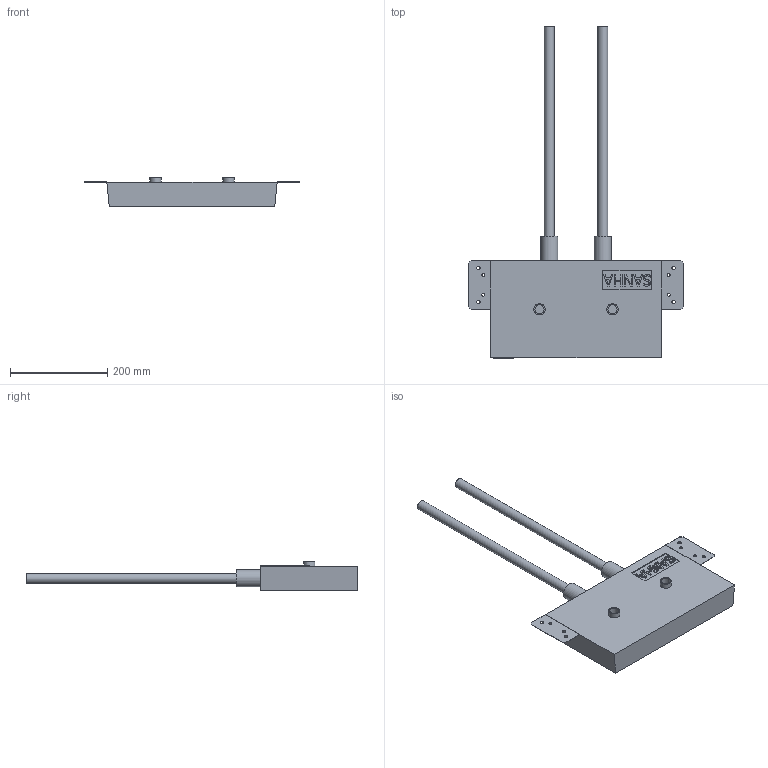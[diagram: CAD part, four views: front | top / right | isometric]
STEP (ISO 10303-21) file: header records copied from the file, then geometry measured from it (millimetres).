
FILE_DESCRIPTION(/* description */ (''),/* implementation_level */ '2;1');
FILE_NAME(/* name */ '\\LG50011\SANHA_Legnica\Engineering\Public\PROJEKTY\SANHA-BOX_Support_BiR\002-Rysunki_Boxów\25-BWDU-T\Zespół-325BWDUT20.stp',/* time_stamp */ '2018-11-05T14:29:44+01:00',/* author */ ('gomulka'),/* organization */ (''),/* preprocessor_version */ 'ST-DEVELOPER v16.13',/* originating_system */ 'Autodesk Inventor 2018',/* authorisation */ '');
FILE_SCHEMA (('AUTOMOTIVE_DESIGN { 1 0 10303 214 3 1 1 }'));
Length unit declared in the file: millimetre
Products named in the file (4): Zespół-325BWDUT20; 325BWDUT20; Rura_20x2; KSBMPDW2
Assembly tree (5 placements, depth 2):
  Zespół-325BWDUT20
    325BWDUT20
    Rura_20x2  x2
    KSBMPDW2  x2
Bounding box: 440.74 x 682.05 x 60 mm (x, y, z)
Volume: 3624560.5 mm3; surface area: 347430.2 mm2
Topology: 5 solids, 5 shells, 130 faces, 312 edges, 208 vertices
Faces by surface type: plane 94, cylinder 20, bspline 16
Full cylindrical faces by diameter (mm): 6.1 x4, 7 x4, 16 x3, 18.631 x2, 20 x3, 23 x2, 35 x2
Entity records: 3505 total; most frequent: CARTESIAN_POINT 777, ORIENTED_EDGE 524, DIRECTION 472, EDGE_CURVE 262, LINE 202, VECTOR 202, VERTEX_POINT 184, EDGE_LOOP 154
